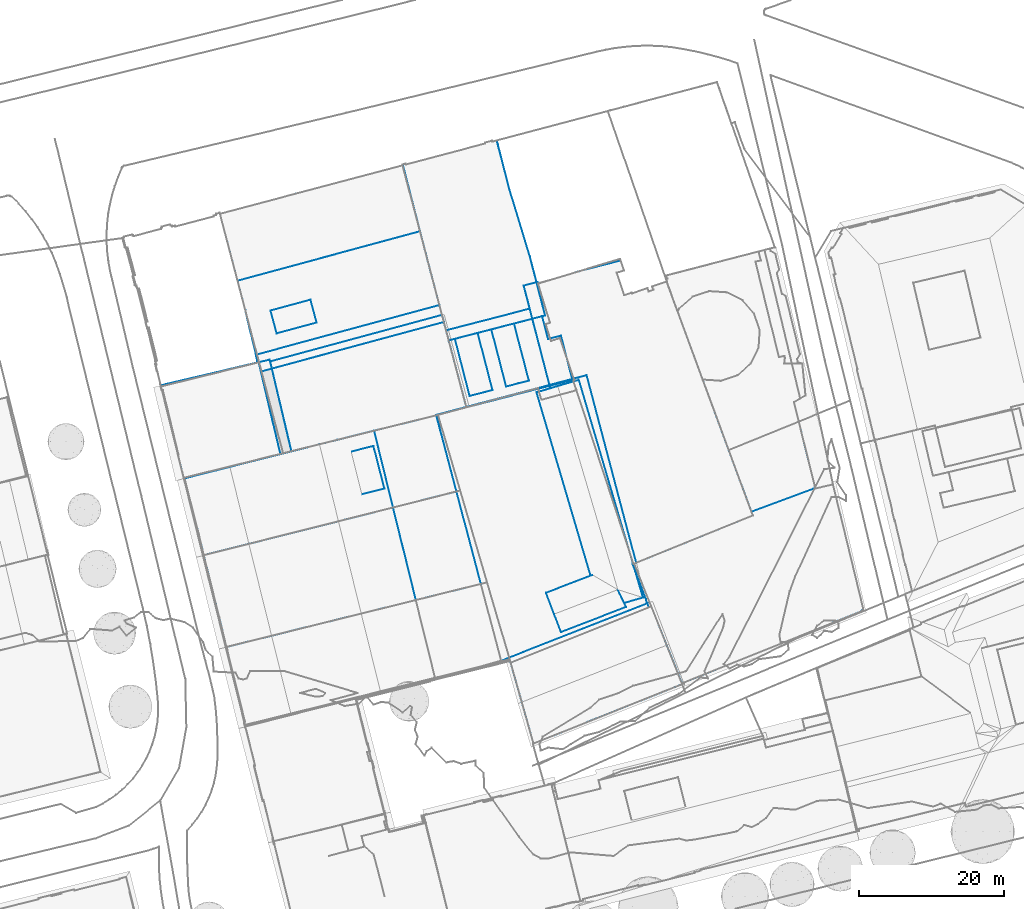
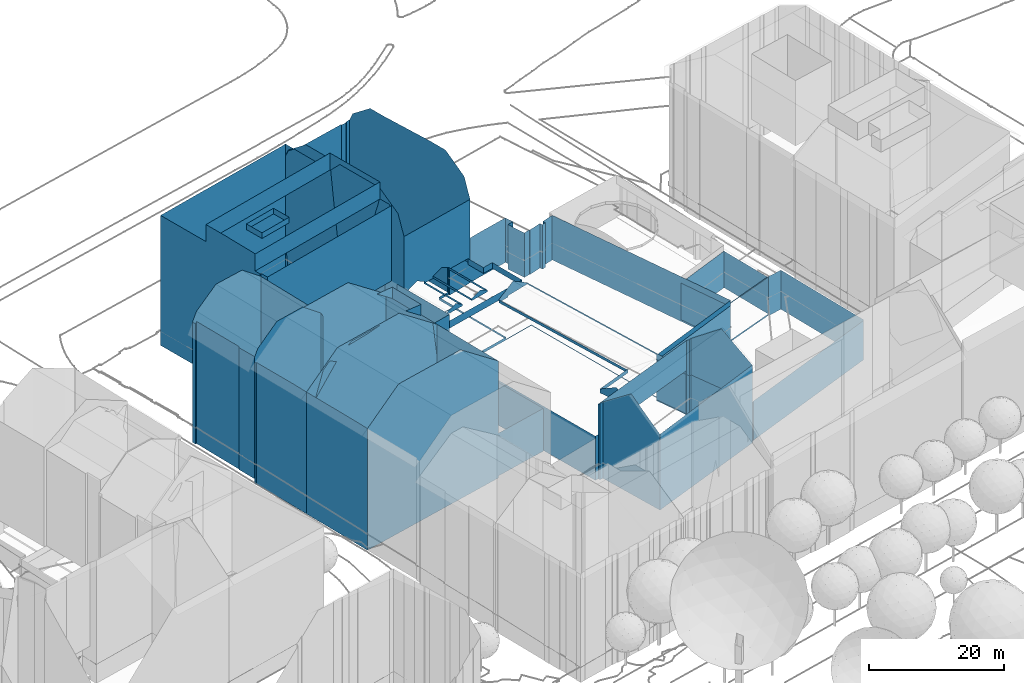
# Not in any storey, part 59 of 477: 6 walls.
"""IFC4 building model written with IfcOpenShell, lengths in metres."""

import ifcopenshell
import ifcopenshell.guid

model = None  # the IFC model being written
_history = None  # IfcOwnerHistory: only IFC2X3 demands one
_inside = {}  # id of a spatial element -> (the spatial element, [elements in it])
_under = {}  # id of a project, library or spatial element -> (it, [spatial elements below it])
_declared = {}  # id of a project -> (the project, [libraries it declares])
_typed = {}  # id of a type object -> (the type object, [elements of that type])
_made_of = {}  # id of a material, layer set ... -> (it, [elements and type objects made of it])


def new_model(schema):
    """Start an empty IFC model of exactly this schema.

    Asked for "IFC4X3", IfcOpenShell would pick the latest addendum, in which some entities
    have other attributes; the version numbers below select the first issue.
    IFC2X3 requires an IfcOwnerHistory on every rooted entity: one is made here for all.
    """
    global model, _history
    if schema == "IFC4X3":
        model = ifcopenshell.file(schema_version=(4, 3, 0, 0))
    else:
        model = ifcopenshell.file(schema=schema)
    _inside.clear()
    _under.clear()
    _declared.clear()
    _typed.clear()
    _made_of.clear()
    _history = None
    if model.schema == "IFC2X3":
        org = make("IfcOrganization", Name="unknown")
        user = make(
            "IfcPersonAndOrganization",
            ThePerson=make("IfcPerson", FamilyName="unknown"),
            TheOrganization=org,
        )
        app = make(
            "IfcApplication",
            ApplicationDeveloper=org,
            Version="unknown",
            ApplicationFullName="unknown",
            ApplicationIdentifier="unknown",
        )
        _history = make(
            "IfcOwnerHistory",
            OwningUser=user,
            OwningApplication=app,
            ChangeAction="ADDED",
            CreationDate=0,
        )
    return model


def make(cls, **values):
    """One entity of the class cls with the attributes given. An attribute that is None is left unset."""
    return model.create_entity(
        cls, **{name: value for name, value in values.items() if value is not None}
    )


def rooted(cls, **values):
    """An entity with a GlobalId (a new one), such as an element, a storey or a relation."""
    return make(cls, GlobalId=ifcopenshell.guid.new(), OwnerHistory=_history, **values)


def si_unit(unit_type, name, prefix=None):
    """IfcSIUnit, for example si_unit("LENGTHUNIT", "METRE", prefix="MILLI")."""
    return make("IfcSIUnit", UnitType=unit_type, Prefix=prefix, Name=name)


def assignment(units):
    """IfcUnitAssignment: the units of a project."""
    return None if units is None else make("IfcUnitAssignment", Units=units)


def point(xyz):
    """IfcCartesianPoint."""
    return None if xyz is None else make("IfcCartesianPoint", Coordinates=xyz)


def direction(xyz):
    """IfcDirection."""
    return None if xyz is None else make("IfcDirection", DirectionRatios=xyz)


def frame(location, z_axis=None, x_axis=None):
    """IfcAxis2Placement3D, a coordinate frame: its origin and axes. An axis left out is left unset."""
    return make(
        "IfcAxis2Placement3D",
        Location=point(location),
        Axis=direction(z_axis),
        RefDirection=direction(x_axis),
    )


def origin_with_axes():
    """The frame at (0, 0, 0) with the z axis (0, 0, 1) and the x axis (1, 0, 0) written out."""
    return frame((0.0, 0.0, 0.0), z_axis=(0.0, 0.0, 1.0), x_axis=(1.0, 0.0, 0.0))


def place(relative_to, where):
    """IfcLocalPlacement: puts the frame where relative to a parent placement (None: the world)."""
    return make(
        "IfcLocalPlacement", PlacementRelTo=relative_to, RelativePlacement=where
    )


def context(
    kind, dimensions, precision=None, world=None, true_north=None, identifier=None
):
    """IfcGeometricRepresentationContext, for example the 3D "Model" context."""
    return make(
        "IfcGeometricRepresentationContext",
        ContextIdentifier=identifier,
        ContextType=kind,
        CoordinateSpaceDimension=dimensions,
        Precision=precision,
        WorldCoordinateSystem=world,
        TrueNorth=true_north,
    )


def subcontext(parent, identifier, kind, view, scale=None):
    """IfcGeometricRepresentationSubContext, for example "Body" below "Model"."""
    return make(
        "IfcGeometricRepresentationSubContext",
        ContextIdentifier=identifier,
        ContextType=kind,
        ParentContext=parent,
        TargetScale=scale,
        TargetView=view,
    )


def project(units=None, contexts=None):
    """IfcProject with its units and contexts."""
    return rooted(
        "IfcProject",
        Name="project",
        RepresentationContexts=contexts,
        UnitsInContext=assignment(units),
    )


def spatial(cls, under=None, at=None, **own):
    """A site, building, storey or space (cls), placed at a placement, below another one or the project."""
    s = rooted(cls, ObjectPlacement=at, **own)
    if under is not None:
        _under.setdefault(under.id(), (under, []))[1].append(s)
    return s


def point_list(points):
    """IfcCartesianPointList2D or 3D."""
    cls = (
        "IfcCartesianPointList2D" if len(points[0]) == 2 else "IfcCartesianPointList3D"
    )
    return make(cls, CoordList=points)


def polygons(points, faces, closed=None, point_numbers=None):
    """IfcPolygonalFaceSet: a face is its outer loop, then its inner loops; points numbered from 1."""
    made = []
    for loops in faces:
        if len(loops) == 1:
            made.append(make("IfcIndexedPolygonalFace", CoordIndex=loops[0]))
        else:
            made.append(
                make(
                    "IfcIndexedPolygonalFaceWithVoids",
                    CoordIndex=loops[0],
                    InnerCoordIndices=loops[1:],
                )
            )
    return make(
        "IfcPolygonalFaceSet",
        Coordinates=point_list(points),
        Closed=closed,
        Faces=made,
        PnIndex=point_numbers,
    )


def shape(context_of_items, identifier, shape_type, items):
    """IfcShapeRepresentation: the items that make up one representation, for example the "Body"."""
    return make(
        "IfcShapeRepresentation",
        ContextOfItems=context_of_items,
        RepresentationIdentifier=identifier,
        RepresentationType=shape_type,
        Items=items,
    )


def made_of(thing, what):
    """Note that an element or type object is made of a material, layer set ...; save() writes the relation."""
    if what is not None:
        _made_of.setdefault(what.id(), (what, []))[1].append(thing)
    return thing


def element(
    cls,
    number,
    at=None,
    inside=None,
    cuts=None,
    type_object=None,
    material=None,
    context=None,
    identifier="Body",
    shape_type=None,
    held_by="IfcProductDefinitionShape",
    body=None,
    shapes=None,
    **own,
):
    """One element of the class cls, such as IfcWall. Its Tag is "e" and its number.

    at: its placement. inside: the storey or other place that contains it. cuts: it is an
    opening in that element (IfcRelVoidsElement). A single representation is given by context,
    identifier, shape_type and body (its items); several are given by shapes. held_by: the class
    of the entity that holds the representations. save() writes the other relations.
    """
    e = rooted(cls, Tag="e%d" % number, ObjectPlacement=at, **own)
    if body is not None:
        shapes = [shape(context, identifier, shape_type, body)]
    if shapes is not None:
        e.Representation = make(held_by, Representations=shapes)
    if inside is not None:
        _inside.setdefault(inside.id(), (inside, []))[1].append(e)
    if cuts is not None:
        rooted(
            "IfcRelVoidsElement", RelatingBuildingElement=cuts, RelatedOpeningElement=e
        )
    if type_object is not None:
        _typed.setdefault(type_object.id(), (type_object, []))[1].append(e)
    return made_of(e, material)


def aggregate(whole, parts):
    """IfcRelAggregates: a whole, such as a stair, and the parts it consists of."""
    return rooted("IfcRelAggregates", RelatingObject=whole, RelatedObjects=parts)


def save(model, path):
    """Write the relations noted so far, then the file.

    IfcRelAggregates (storeys below a building ...), IfcRelContainedInSpatialStructure (elements
    in a storey), IfcRelDefinesByType, IfcRelAssociatesMaterial and IfcRelDeclares: one each for
    every whole, place, type object, material and project.
    """
    for whole, parts in _under.values():
        aggregate(whole, parts)
    for where, things in _inside.values():
        rooted(
            "IfcRelContainedInSpatialStructure",
            RelatedElements=things,
            RelatingStructure=where,
        )
    for kind, things in _typed.values():
        rooted("IfcRelDefinesByType", RelatedObjects=things, RelatingType=kind)
    for what, things in _made_of.values():
        rooted("IfcRelAssociatesMaterial", RelatedObjects=things, RelatingMaterial=what)
    for by, libraries in _declared.values():
        rooted("IfcRelDeclares", RelatingContext=by, RelatedDefinitions=libraries)
    model.write(path)


model = new_model("IFC4")

# Units and contexts
model_context = context("Model", 3, precision=1e-05, world=origin_with_axes())
body_context = subcontext(model_context, "Body", "Model", "MODEL_VIEW")
ifc_project = project(units=[si_unit("AREAUNIT", "SQUARE_METRE"), si_unit("LENGTHUNIT", "METRE")], contexts=[model_context])

# Sites, building
site_1_placement = place(None, origin_with_axes())
site_1 = spatial("IfcSite", under=ifc_project, at=site_1_placement, Name="Topoexport Site")
site_2_placement = place(site_1_placement, origin_with_axes())
site_2 = spatial("IfcSite", under=site_1, at=site_2_placement, Name="TPX_BUILDINGS")
building_1_placement = place(site_2_placement, frame((138.3257320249, 434.5047160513, 538.8886), z_axis=(0.0, 0.0, 1.0), x_axis=(1.0, 0.0, 0.0)))
building_1 = spatial("IfcBuilding", under=site_2, at=building_1_placement, Name="Building 221", CompositionType="ELEMENT")

# Wall
wall_1_placement = place(None, frame((138.3257320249, 434.5047160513, 538.8886), z_axis=(0.0, 0.0, 1.0), x_axis=(1.0, 0.0, 0.0)))
element("IfcWall", 1, at=wall_1_placement, inside=building_1, Name="Wall 0", context=body_context, shape_type="Tessellation", body=[
    polygons([(16.518000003, -9.4560999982, 0.0), (12.825000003, -10.3867000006, 0.0), (16.518000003, -9.4560999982, 23.2408), (13.5280000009, 3.1963, 0.0), (13.5280000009, 3.1963, 23.2408), (9.8220000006, 2.3213, 0.0), (9.8220000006, 2.3213, 26.2215), (7.6590000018, -11.6904000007, 26.2215), (12.825000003, -10.3867000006, 26.2215), (4.6380000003, 1.0956999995, 0.0), (4.6380000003, 1.0956999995, 26.2215), (7.6590000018, -11.6904000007, 0.0), (3.8420000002, -12.6532999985, 23.2408), (0.807, 0.1914000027, 0.0), (0.807, 0.1914000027, 23.2408), (0.0, 0.0, 21.6769), (0.1640000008, -0.6611000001, 21.6909), (0.1640000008, -0.6611000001, 0.0), (0.0, 0.0, 0.0), (0.3480000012, -0.615199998, 22.0489), (0.3480000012, -0.615199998, 0.0), (2.4940000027, -9.5020000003, 22.1329), (2.4230000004, -9.5194999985, 0.0), (2.4940000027, -9.5020000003, 0.0), (2.4231000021, -9.5196000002, 21.9949), (3.2370000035, -12.8046999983, 0.0), (3.2200000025, -12.7372999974, 22.0639), (3.2370000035, -12.8046999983, 22.0639), (3.8420000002, -12.6532999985, 0.0)], [[[3, 2, 1]], [[5, 3, 4]], [[7, 5, 6]], [[9, 8, 2]], [[11, 7, 10]], [[8, 13, 12]], [[15, 10, 14]], [[18, 17, 16]], [[16, 19, 18]], [[17, 18, 20]], [[20, 18, 21]], [[20, 21, 22]], [[24, 23, 22]], [[22, 23, 25]], [[27, 25, 26]], [[26, 25, 23]], [[26, 28, 27]], [[13, 28, 29]], [[16, 14, 19]], [[14, 16, 15]], [[9, 2, 3]], [[3, 1, 4]], [[5, 4, 6]], [[8, 12, 2]], [[7, 6, 10]], [[13, 29, 12]], [[11, 10, 15]], [[22, 21, 24]], [[28, 26, 29]]]),
])

# Building
building_2_placement = place(site_2_placement, frame((146.5207320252, 458.1258160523, 539.1716), z_axis=(0.0, 0.0, 1.0), x_axis=(1.0, 0.0, 0.0)))
building_2 = spatial("IfcBuilding", under=site_2, at=building_2_placement, Name="Building 222", CompositionType="ELEMENT")

# Wall
wall_2_placement = place(None, frame((146.5207320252, 458.1258160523, 539.1716), z_axis=(0.0, 0.0, 1.0), x_axis=(1.0, 0.0, 0.0)))
element("IfcWall", 2, at=wall_2_placement, inside=building_2, Name="Wall 0", context=body_context, shape_type="Tessellation", body=[
    polygons([(7.818, -16.4530999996, 26.5324), (6.9640000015, -13.3027999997, 27.5443), (7.818, -16.4530999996, 27.5443), (13.3110000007, -14.9638999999, 26.5324), (13.3110000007, -14.9638999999, 27.5443), (12.4570000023, -11.8145000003, 26.5324), (12.4570000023, -11.8145000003, 27.5443), (6.9640000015, -13.3027999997, 26.5324), (27.5430000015, -2.3984999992, 23.4627), (30.2070000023, -12.5498000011, 26.5324), (27.5290000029, -2.4023999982, 26.5324), (28.3380000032, -5.4688000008, 0.0), (27.5290000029, -2.4023999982, 0.041), (30.2070000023, -12.5498000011, 23.4627), (2.4310000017, -9.2050999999, 23.4627), (2.4310000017, -9.2050999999, 26.5324), (3.495000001, -13.2324000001, 23.4627), (3.4940000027, -13.2324000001, 26.5324), (4.9450000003, -19.3993999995, 23.4627), (4.887000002, -19.0351999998, 26.5324), (4.9450000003, -19.3993999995, 26.5324), (25.1030000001, 6.7899999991, 0.0), (25.1620000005, 6.8055999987, 23.4627), (25.1030000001, 6.7899999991, 23.4627), (25.137000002, 6.6611000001, 0.0), (25.137000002, 6.6611000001, 23.4627), (0.0, 0.0, 0.0), (0.0, 0.0, 23.4628), (3.4940000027, -13.2324000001, 0.041), (3.495000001, -13.2324000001, 0.0), (4.9539999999, -19.4560999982, 0.0), (4.9539999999, -19.4560999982, 23.4627), (4.887000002, -19.0351999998, 0.0), (5.189000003, -20.4589999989, 0.0), (5.189000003, -20.4589999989, 23.4627), (5.3910000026, -20.4120999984, 23.4627), (5.3330000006, -20.4248000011, 22.9578), (5.3330000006, -20.4248000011, 0.0), (5.7270000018, -21.6865000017, 22.7538), (5.3910000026, -20.4111000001, 22.8278), (5.7270000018, -21.6865000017, 23.4627), (7.1530000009, -21.2987999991, 9.859), (7.1530000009, -21.2987999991, 19.5231), (30.8230000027, -14.8828000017, 9.859), (30.8230000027, -14.8828000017, 23.4627), (30.0260000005, -27.6796999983, -0.206), (9.8399999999, -32.6708999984, 9.859), (30.0260000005, -27.6796999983, 9.859), (33.9230000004, -26.629900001, -0.206), (33.9230000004, -26.629900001, 9.859), (6.9210000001, -20.317400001, -0.2059), (30.5660000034, -13.9092000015, 0.0), (6.9210000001, -20.317400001, 0.0001), (8.3230000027, -33.0771999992, -0.283), (8.3230000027, -33.0771999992, 22.9578), (5.3330000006, -20.4248000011, -0.283), (9.8440000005, -32.6875, -0.283), (9.8440000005, -32.6875, 19.5231), (6.8610000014, -20.0645000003, -0.283), (6.8610000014, -20.0645000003, 0.0), (9.8399999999, -32.6708999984, -0.206), (5.3910000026, -20.4120999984, 0.0), (4.0580000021, -15.6338, 23.4627), (4.0580000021, -15.6338, 26.5324), (4.0580000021, -15.6338, 0.0), (30.2070000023, -12.5498000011, 0.0409), (30.5660000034, -13.9092000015, -0.206), (25.3410000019, 6.1123000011, 23.4627), (25.1620000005, 6.8055999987, 0.0), (25.3410000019, 6.1123000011, 0.0), (26.2660000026, 2.5370999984, 0.0), (26.2660000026, 2.5370999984, 23.4627)], [[[3, 2, 1]], [[5, 3, 4]], [[7, 5, 6]], [[2, 7, 8]], [[11, 10, 9]], [[13, 9, 12]], [[14, 12, 9]], [[16, 11, 15]], [[18, 16, 17]], [[21, 20, 19]], [[10, 19, 14]], [[24, 23, 22]], [[26, 24, 25]], [[28, 26, 27]], [[29, 17, 15]], [[30, 29, 27]], [[15, 28, 27]], [[15, 27, 29]], [[32, 19, 31]], [[31, 19, 33]], [[20, 33, 19]], [[35, 32, 34]], [[37, 36, 35]], [[37, 34, 38]], [[41, 40, 39]], [[44, 43, 42]], [[43, 44, 45]], [[45, 39, 43]], [[39, 45, 41]], [[48, 47, 46]], [[50, 48, 49]], [[53, 52, 51]], [[55, 38, 54]], [[38, 56, 54]], [[58, 54, 57]], [[36, 37, 40]], [[60, 51, 59]], [[51, 60, 53]], [[59, 51, 57]], [[43, 58, 47]], [[47, 57, 61]], [[57, 47, 58]], [[42, 43, 47]], [[56, 38, 62]], [[62, 60, 59]], [[62, 59, 56]], [[64, 18, 63]], [[63, 29, 65]], [[20, 63, 33]], [[66, 52, 12]], [[66, 14, 44]], [[44, 52, 66]], [[44, 49, 52]], [[49, 44, 50]], [[52, 49, 67]], [[44, 14, 45]], [[70, 69, 68]], [[70, 68, 71]], [[72, 9, 13]], [[72, 13, 71]], [[2, 8, 1]], [[3, 1, 4]], [[5, 4, 6]], [[7, 6, 8]], [[10, 14, 9]], [[66, 12, 14]], [[11, 9, 15]], [[16, 15, 17]], [[21, 19, 10]], [[23, 69, 22]], [[24, 22, 25]], [[26, 25, 27]], [[29, 30, 65]], [[32, 31, 34]], [[35, 34, 37]], [[36, 40, 41]], [[47, 61, 46]], [[48, 46, 49]], [[52, 67, 51]], [[37, 38, 55]], [[55, 54, 58]], [[51, 61, 57]], [[18, 17, 63]], [[17, 29, 63]], [[64, 63, 20]], [[63, 65, 33]], [[69, 23, 68]], [[68, 72, 71]]]),
])

# Building
building_3_placement = place(site_2_placement, frame((171.6827320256, 464.931416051, 544.4901), z_axis=(0.0, 0.0, 1.0), x_axis=(1.0, 0.0, 0.0)))
building_3 = spatial("IfcBuilding", under=site_2, at=building_3_placement, Name="Building 223", CompositionType="ELEMENT")

# Wall
wall_3_placement = place(None, frame((171.6827320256, 464.931416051, 544.4901), z_axis=(0.0, 0.0, 1.0), x_axis=(1.0, 0.0, 0.0)))
element("IfcWall", 3, at=wall_3_placement, inside=building_3, Name="Wall 0", context=body_context, shape_type="Tessellation", body=[
    polygons([(25.3049999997, -29.0145999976, -5.9495), (32.1319999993, -54.8358999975, -5.7696), (25.3049999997, -29.0145999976, -5.7695), (8.75, -33.3915999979, -5.4106), (8.75, -33.3915999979, 2.0357), (4.6040000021, -34.4872999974, 2.0357), (20.193, -30.3662, -5.7695), (4.6040000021, -34.4872999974, -5.9495), (20.193, -30.3662, -5.4106), (14.1380000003, -68.1405999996, -5.9496), (13.5439999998, -68.297799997, 2.0357), (14.1380000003, -68.1405999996, 2.0357), (33.4499999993, -59.8192999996, -5.9496), (33.6090000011, -60.4188999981, 2.0357), (33.4499999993, -59.8192999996, 2.0357), (14.7910000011, -68.3524999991, 4.3825), (14.2369999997, -68.4891999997, 7.7761), (14.7910000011, -68.3524999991, 7.8321), (14.7910000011, -68.3524999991, -5.9656), (14.2369999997, -68.4891999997, 4.3265), (14.7910000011, -68.3524999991, 0.9328), (14.2369999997, -68.4891999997, -5.9656), (33.8800000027, -60.9549999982, 7.8991), (34.2039999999, -60.8250999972, 0.9648), (34.2039999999, -60.8250999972, 7.8971), (34.2039999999, -60.8250999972, -5.9656), (34.2039999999, -60.8250999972, -2.5009), (33.8800000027, -60.9549999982, -5.9656), (33.6680000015, -60.3954999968, -5.9656), (33.6680000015, -60.3954999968, 7.4562), (25.8440000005, -56.5965999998, 2.5666), (19.699000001, -58.9579999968, 2.7386), (19.699000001, -58.9579999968, 2.0357), (26.1090000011, -56.495099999, 2.7386), (25.8440000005, -56.5965999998, 2.0357), (30.7530000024, -60.8993999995, 2.0357), (21.7699999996, -64.3495999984, 2.7386), (30.7530000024, -60.8993999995, 2.7386), (29.568, -58.5086999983, 4.4095), (30.4890000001, -60.3671000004, 2.5666), (30.4890000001, -60.3671000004, 2.0357), (24.2270000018, -29.6512999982, 2.2927), (31.7090000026, -55.0077999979, 2.2927), (24.2270000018, -29.6512999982, 2.5667), (31.9940000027, -55.9725999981, 2.0357), (33.0670000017, -59.6063999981, 2.0357), (31.9940000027, -55.9725999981, 2.5666), (33.0670000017, -59.6063999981, 2.5666), (18.4000000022, -31.3719999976, 2.5667), (21.7800000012, -23.5692999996, 2.2927), (23.3570000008, -29.6620999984, 3.3656), (21.7800000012, -23.5692999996, 3.3656), (19.9979999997, -24.0301999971, 2.2927), (19.9979999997, -24.0301999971, 3.3656), (19.1810000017, -20.9041999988, 2.2927), (19.1810000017, -20.9041999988, 3.3656), (5.9640000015, -22.8387999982, -5.4105), (17.4739999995, -19.8592999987, -5.2746), (5.9640000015, -22.8387999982, -5.2746), (14.6960000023, -3.5155999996, -5.2745), (17.4869999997, -12.6708000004, 20.167), (14.6960000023, -3.5155999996, 20.167), (14.0340000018, -0.9569999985, -5.2745), (14.0340000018, -0.9569999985, 20.167), (14.0250000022, -0.9237999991, -5.2745), (14.0250000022, -0.9237999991, 20.167), (12.2910000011, 3.1182000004, -5.2745), (12.2550000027, 3.2442000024, 15.6715), (12.2550000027, 3.2442000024, -5.2745), (11.3139999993, 3.0020000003, 15.6675), (11.3139999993, 3.0020000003, -5.2745), (11.3489999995, 2.8692000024, 15.9664), (11.3489999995, 2.8692000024, -5.2745), (0.4519999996, -0.0185000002, -5.2745), (0.4519999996, -0.0185000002, 16.1084), (0.4180000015, 0.1114000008, 15.8165), (0.4180999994, 0.1114000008, -5.2745), (0.0, 0.0, 0.0), (0.1770000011, 0.0469000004, 15.8195), (0.0, 0.0, 5.2745), (0.0, 0.0001000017, -5.2745), (15.3159999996, -21.9051999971, 3.7316), (19.5910000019, -20.7987999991, 13.8566), (13.8949999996, -22.2723999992, 4.4195), (12.194000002, -22.7137999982, 3.7316), (8.9189999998, -23.5604999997, 4.5115), (6.3320000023, -24.2303999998, 13.8566), (19.5910000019, -20.7987999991, 2.2927), (15.3159999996, -21.9051999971, 3.3656), (10.313000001, -23.2010999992, 3.7316), (6.3320000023, -24.2303999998, 3.3656), (7.1720000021, -24.0135999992, 3.7316), (12.194000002, -22.7137999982, 3.3656), (10.313000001, -23.2010999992, 3.3656), (7.1720000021, -24.0135999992, 3.3656), (18.6300000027, -16.4188999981, -5.7695), (24.2190000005, -14.7264999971, 2.2927), (18.6300000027, -16.4188999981, 2.2927), (18.5610000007, -16.1912999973, -5.7695), (18.5610000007, -16.1912999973, 2.2927), (34.3350000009, -16.8084999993, -5.7695), (36.3110000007, -16.1248999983, 2.2927), (34.3350000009, -16.8084999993, 2.2927), (34.4930000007, -17.2625999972, -5.7695), (34.4930000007, -17.2625999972, 2.2927), (33.8560000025, -17.4881999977, -5.7695), (33.8560000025, -17.4881999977, 2.2927), (33.6999999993, -17.0350999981, -5.7695), (33.6999999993, -17.0350999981, 2.2927), (31.5340000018, -17.7567999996, -5.7695), (31.5340000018, -17.7567999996, 2.2927), (31.5030000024, -17.6629999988, -5.7695), (31.5030000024, -17.6629999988, 2.2927), (30.4830000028, -18.0086999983, -5.7695), (30.4830000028, -18.0086999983, 2.2927), (29.4389999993, -14.9199000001, -5.7695), (29.4389999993, -14.9199000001, 2.2927), (30.4539999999, -14.6063999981, -5.7695), (30.4539999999, -14.6063999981, 2.2927), (29.9849999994, -13.2342999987, -5.7695), (29.9849999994, -13.2342999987, 2.2927), (24.2190000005, -14.7264999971, -5.7695), (18.4090000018, -16.2303999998, -5.2746), (16.6520000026, -16.6854999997, -5.2746), (16.6520000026, -16.6854999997, -5.7695), (18.4090000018, -16.2303999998, 2.2927), (12.3470000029, -31.0594999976, 3.7316), (9.2070000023, -31.8729999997, 3.7316), (9.2070000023, -31.8729999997, 3.3656), (17.3500000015, -29.7645999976, 3.3656), (17.3500000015, -29.7645999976, 3.7316), (14.2280000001, -30.5722000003, 3.7316), (14.2280000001, -30.5722000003, 3.3656), (23.3570000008, -29.6620999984, 2.2927), (20.2210000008, -30.4725999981, 2.2927), (8.762000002, -33.4373999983, 3.3656), (20.2210000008, -30.4725999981, 2.0357), (8.762000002, -33.4373999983, 2.0357), (17.4739999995, -19.8592999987, -5.4106), (20.3080000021, -30.8084999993, 2.0357), (20.3080000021, -30.8084999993, 2.2927), (31.6400000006, -55.0361000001, 2.6116), (31.6400000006, -55.0361000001, -5.9496), (10.7540000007, -57.7459999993, -5.9495), (10.7540000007, -57.7459999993, 2.0357), (7.3910000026, -45.0252999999, -5.9495), (7.3910000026, -45.0252999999, 2.0357), (37.4580000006, -71.9287, -5.9656), (38.4739999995, -71.5223999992, 8.0841), (38.4739999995, -71.5223999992, -5.9656), (37.4580000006, -71.9287, 8.0801), (17.9940000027, -79.7010999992, -5.9657), (17.9940000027, -79.7010999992, 7.721), (36.3260000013, -66.1415999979, 12.1367), (36.2930000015, -66.0594999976, 12.0707), (36.3260000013, -66.1415999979, -5.9656), (36.2930000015, -66.0594999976, -5.9656), (16.4210000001, -74.1268999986, -5.9656), (16.3780000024, -73.9764999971, -5.9656), (16.3780000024, -73.9764999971, 12.1367), (16.4210000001, -74.1268999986, 12.0287), (14.1380000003, -68.1405999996, 7.5092), (14.1190000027, -68.0711999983, 7.4562), (14.1190000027, -68.0711999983, 2.0357), (14.1190000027, -68.0711999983, -5.9656), (14.1190000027, -68.0711999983, -5.9496), (33.6090000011, -60.4188999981, -5.9495), (20.818, -61.870099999, 2.0357), (21.7699999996, -64.3495999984, 2.0357), (20.818, -61.870099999, 4.4095), (48.182, -48.302699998, -5.7696), (48.182, -48.302699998, 2.2927), (32.1319999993, -54.8358999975, -5.9496), (31.7090000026, -55.0077999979, 2.5666), (21.3060000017, -30.5135999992, 4.4095), (18.4000000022, -31.3719999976, 2.0357), (18.2939999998, -15.7879999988, 20.167), (19.2770000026, -19.5848999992, 17.3803), (19.2770000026, -19.5848999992, 2.2927), (17.4869999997, -12.6708000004, -5.2746), (12.2910000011, 3.1182000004, 15.9564), (12.9360000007, 3.2901000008, 15.9454), (12.6440000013, 3.2120000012, -5.2745), (12.9360000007, 3.2901000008, -5.2745), (1.1040000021, -4.2685000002, 20.167), (0.0, 0.0001000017, 15.8225), (0.1790000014, -0.6932999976, 17.3803), (0.0, 0.0, 10.548), (3.1779999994, -12.2821999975, 20.167), (0.1790000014, -0.6932999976, -5.2745), (1.1040000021, -4.2685000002, -5.2745), (3.1779999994, -12.2821999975, -5.2745), (13.0840000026, 2.7138999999, -5.2745), (13.1000000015, 2.6513999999, -5.2745), (13.1000000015, 2.6513999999, 17.3803), (36.3110000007, -16.1248999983, -5.7695), (37.0789999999, -18.2079999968, 2.2927), (37.0789999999, -18.2079999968, -5.7695), (10.9530000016, -31.4208000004, 4.5115), (12.3470000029, -31.0594999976, 3.3656), (15.9299999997, -30.1327999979, 3.3656), (15.9299999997, -30.1327999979, 4.4195), (5.0109999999, -19.2254999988, 20.167), (5.0109999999, -19.2254999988, -5.2746), (6.012000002, -23.0185000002, 17.3803), (13.5439999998, -68.297799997, -5.9496)], [[[3, 2, 1]], [[6, 5, 4]], [[8, 4, 7]], [[4, 8, 6]], [[9, 7, 4]], [[3, 1, 7]], [[7, 1, 8]], [[12, 11, 10]], [[15, 14, 13]], [[18, 17, 16]], [[21, 20, 19]], [[20, 22, 19]], [[25, 24, 23]], [[27, 26, 23]], [[23, 26, 28]], [[30, 23, 29]], [[29, 23, 28]], [[33, 32, 31]], [[34, 31, 32]], [[31, 35, 33]], [[38, 37, 36]], [[40, 39, 38]], [[40, 36, 41]], [[36, 40, 38]], [[44, 43, 42]], [[47, 46, 45]], [[48, 40, 46]], [[31, 49, 35]], [[52, 51, 50]], [[54, 52, 53]], [[56, 54, 55]], [[59, 58, 57]], [[62, 61, 60]], [[64, 62, 63]], [[66, 64, 65]], [[69, 68, 67]], [[71, 70, 68]], [[68, 69, 71]], [[73, 72, 71]], [[72, 70, 71]], [[75, 72, 74]], [[72, 73, 74]], [[77, 76, 75]], [[75, 74, 77]], [[80, 79, 78]], [[81, 78, 79]], [[79, 77, 81]], [[83, 82, 56]], [[82, 83, 84]], [[86, 85, 84]], [[84, 83, 87]], [[88, 56, 55]], [[56, 88, 83]], [[56, 82, 89]], [[90, 85, 86]], [[92, 87, 91]], [[87, 92, 86]], [[90, 93, 85]], [[93, 90, 94]], [[91, 95, 92]], [[86, 84, 87]], [[98, 97, 96]], [[100, 98, 99]], [[103, 102, 101]], [[105, 103, 104]], [[107, 105, 106]], [[109, 107, 108]], [[111, 109, 110]], [[113, 111, 112]], [[115, 113, 114]], [[117, 115, 116]], [[119, 117, 118]], [[121, 119, 120]], [[97, 121, 122]], [[125, 124, 123]], [[123, 100, 99]], [[100, 123, 126]], [[123, 99, 125]], [[127, 94, 90]], [[129, 128, 95]], [[131, 130, 82]], [[133, 132, 93]], [[51, 135, 134]], [[135, 51, 136]], [[135, 138, 137]], [[138, 135, 136]], [[139, 7, 9]], [[124, 125, 139]], [[124, 139, 58]], [[141, 135, 140]], [[143, 142, 45]], [[45, 142, 47]], [[15, 13, 45]], [[145, 144, 11]], [[147, 146, 145]], [[6, 8, 147]], [[150, 149, 148]], [[148, 149, 151]], [[148, 153, 152]], [[153, 148, 151]], [[155, 154, 24]], [[25, 155, 24]], [[154, 149, 24]], [[149, 150, 156]], [[149, 156, 157]], [[27, 157, 26]], [[157, 27, 149]], [[149, 27, 24]], [[152, 153, 158]], [[158, 21, 159]], [[19, 159, 21]], [[21, 158, 153]], [[161, 160, 18]], [[161, 18, 16]], [[153, 16, 21]], [[153, 161, 16]], [[20, 17, 162]], [[20, 162, 163]], [[20, 164, 12]], [[164, 20, 163]], [[20, 12, 22]], [[12, 10, 22]], [[22, 10, 165]], [[165, 10, 166]], [[166, 167, 165]], [[163, 30, 164]], [[164, 30, 14]], [[14, 30, 167]], [[165, 167, 29]], [[169, 37, 168]], [[168, 37, 170]], [[168, 32, 33]], [[32, 168, 170]], [[172, 2, 171]], [[173, 2, 143]], [[172, 43, 2]], [[174, 142, 43]], [[143, 43, 142]], [[43, 143, 2]], [[175, 141, 49]], [[140, 176, 49]], [[49, 141, 140]], [[42, 141, 175]], [[42, 175, 44]], [[178, 83, 177]], [[177, 83, 61]], [[126, 61, 179]], [[61, 126, 180]], [[61, 83, 179]], [[88, 179, 83]], [[180, 126, 123]], [[182, 67, 181]], [[183, 67, 182]], [[183, 182, 184]], [[187, 186, 185]], [[189, 185, 188]], [[188, 185, 186]], [[189, 188, 80]], [[78, 81, 190]], [[80, 78, 191]], [[191, 192, 189]], [[191, 78, 190]], [[191, 189, 80]], [[194, 193, 182]], [[65, 194, 182]], [[193, 184, 182]], [[182, 195, 66]], [[66, 65, 182]], [[102, 197, 196]], [[171, 198, 172]], [[129, 200, 199]], [[199, 200, 127]], [[128, 129, 199]], [[130, 131, 201]], [[201, 131, 202]], [[132, 133, 201]], [[132, 201, 202]], [[91, 87, 189]], [[136, 91, 5]], [[5, 138, 136]], [[4, 5, 91]], [[91, 59, 4]], [[203, 189, 87]], [[189, 192, 91]], [[57, 4, 59]], [[204, 91, 192]], [[91, 204, 59]], [[87, 205, 203]], [[2, 173, 1]], [[11, 206, 10]], [[14, 167, 13]], [[17, 21, 16]], [[17, 20, 21]], [[24, 27, 23]], [[37, 169, 36]], [[174, 43, 44]], [[48, 46, 47]], [[40, 41, 46]], [[49, 176, 35]], [[51, 134, 50]], [[52, 50, 53]], [[54, 53, 55]], [[58, 139, 57]], [[61, 180, 60]], [[62, 60, 63]], [[64, 63, 65]], [[67, 68, 181]], [[186, 79, 188]], [[80, 188, 79]], [[76, 77, 79]], [[97, 122, 96]], [[98, 96, 99]], [[102, 196, 101]], [[103, 101, 104]], [[105, 104, 106]], [[107, 106, 108]], [[109, 108, 110]], [[111, 110, 112]], [[113, 112, 114]], [[115, 114, 116]], [[117, 116, 118]], [[119, 118, 120]], [[121, 120, 122]], [[200, 94, 127]], [[128, 92, 95]], [[130, 89, 82]], [[132, 85, 93]], [[125, 7, 139]], [[135, 137, 140]], [[13, 143, 45]], [[144, 206, 11]], [[146, 144, 145]], [[8, 146, 147]], [[30, 29, 167]], [[197, 198, 196]], [[198, 197, 172]]]),
])

# Building
building_4_placement = place(site_2_placement, frame((203.3227320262, 409.8953160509, 538.7355), z_axis=(0.0, 0.0, 1.0), x_axis=(1.0, 0.0, 0.0)))
building_4 = spatial("IfcBuilding", under=site_2, at=building_4_placement, Name="Building 225", CompositionType="ELEMENT")

# Wall
wall_4_placement = place(None, frame((203.3227320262, 409.8953160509, 538.7355), z_axis=(0.0, 0.0, 1.0), x_axis=(1.0, 0.0, 0.0)))
element("IfcWall", 4, at=wall_4_placement, inside=building_4, Name="Wall 0", context=body_context, shape_type="Tessellation", body=[
    polygons([(13.2300000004, 15.7090000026, 0.293), (22.8669999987, 19.6455000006, 6.8984), (13.2300000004, 15.7090000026, 6.8984), (0.0, 0.0, 0.0), (16.5419999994, 6.7334000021, 7.0823), (0.0, 0.0, 7.0824), (1.8099999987, -4.7831999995, 0.0), (1.8099999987, -4.7831999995, 7.0823), (1.9690000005, -5.3827999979, 0.0), (1.9690000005, -5.3827999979, 7.0823), (2.0280000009, -5.3593999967, 0.0), (2.0280000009, -5.3593999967, 7.0823), (2.2400000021, -5.9188999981, 0.0), (2.2400000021, -5.9188999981, 7.0823), (2.5639999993, -5.7889999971, 0.0), (2.5639999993, -5.7890999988, 7.0823), (6.8339999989, -16.4862999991, 0.0), (6.8339999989, -16.4862999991, 7.0823), (7.0720000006, -16.3925999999, 0.0), (7.0720000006, -16.3925999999, 7.0823), (7.0309999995, -16.2909999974, 0.0), (7.0309999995, -16.2909999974, 7.0823), (31.5199999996, -6.4589999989, 0.0), (31.5199999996, -6.4589999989, 7.0823), (31.6009999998, -6.4081999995, 0.0), (31.6009999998, -6.4081999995, 7.0823), (31.6669999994, -6.3398000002, 0.0), (31.6669999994, -6.3398000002, 7.0823), (31.7290000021, -6.1952999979, 0.0), (31.7290000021, -6.1952999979, 7.0823), (31.7300000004, -6.0682999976, 0.0), (31.7300000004, -6.0682999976, 7.0823), (27.5769999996, 10.9795000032, 0.0), (27.5769999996, 10.9795000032, 7.0823), (25.1530000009, 10.4326000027, 7.0823), (25.1530000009, 10.4326000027, 0.0), (16.3520000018, 7.2471000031, 6.8984), (25.1330000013, 10.5117000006, 7.0823), (16.3520000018, 7.2471000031, 7.0823), (16.3520000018, 7.2471000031, 0.0), (25.1330000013, 10.5117000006, 0.0), (16.3520000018, 7.2471000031, 0.293), (16.5419999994, 6.7334000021, 0.0), (25.1330000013, 10.5117000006, 0.293), (25.1330000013, 10.5117000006, 6.8984), (22.8669999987, 19.6455000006, 0.293)], [[[3, 2, 1]], [[6, 5, 4]], [[8, 6, 7]], [[10, 8, 9]], [[12, 10, 11]], [[14, 12, 13]], [[16, 14, 15]], [[18, 16, 17]], [[20, 18, 19]], [[22, 20, 21]], [[24, 22, 23]], [[26, 24, 25]], [[28, 26, 27]], [[30, 28, 29]], [[32, 30, 31]], [[34, 32, 33]], [[36, 35, 34]], [[39, 38, 37]], [[42, 41, 40]], [[5, 39, 37]], [[42, 5, 37]], [[37, 3, 42]], [[42, 40, 43]], [[2, 45, 44]], [[44, 46, 2]], [[44, 36, 41]], [[44, 45, 36]], [[35, 45, 38]], [[2, 46, 1]], [[5, 43, 4]], [[6, 4, 7]], [[8, 7, 9]], [[10, 9, 11]], [[12, 11, 13]], [[14, 13, 15]], [[16, 15, 17]], [[18, 17, 19]], [[20, 19, 21]], [[22, 21, 23]], [[24, 23, 25]], [[26, 25, 27]], [[28, 27, 29]], [[30, 29, 31]], [[32, 31, 33]], [[34, 33, 36]], [[38, 45, 37]], [[44, 41, 42]], [[43, 5, 42]], [[3, 1, 42]], [[36, 45, 35]]]),
])

# Building
building_5_placement = place(site_2_placement, frame((141.5627320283, 421.7029160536, 538.0287), z_axis=(0.0, 0.0, 1.0), x_axis=(1.0, 0.0, 0.0)))
building_5 = spatial("IfcBuilding", under=site_2, at=building_5_placement, Name="Building 227", CompositionType="ELEMENT")

# Wall
wall_5_placement = place(None, frame((141.5627320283, 421.7029160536, 538.0287), z_axis=(0.0, 0.0, 1.0), x_axis=(1.0, 0.0, 0.0)))
element("IfcWall", 5, at=wall_5_placement, inside=building_5, Name="Wall 0", context=body_context, shape_type="Tessellation", body=[
    polygons([(27.5909999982, -1.3779000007, 21.5249), (24.4709999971, -2.1845000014, 23.9257), (27.5909999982, -1.3779000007, 23.5407), (26.0779999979, 4.486399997, 21.5729), (26.0779999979, 4.486399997, 23.6367), (23.0029999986, 3.691399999, 23.9397), (0.1639999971, -0.2509000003, 21.9679), (0.068, -0.2773000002, 0.0), (0.068, -0.2773000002, 21.8919), (0.1637999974, -0.251000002, 0.0), (0.0, 9.9998e-05, 16.4194), (0.0, 9.9998e-05, 10.9469), (0.0, 0.0, 0.0), (0.0, 0.0, 5.4734), (2.3239999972, -8.7978000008, 5.4934), (2.561999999, -9.7928999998, 21.9898), (2.5759999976, -9.8535000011, 5.4864), (2.743999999, -10.5576000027, 16.4844), (2.743999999, -10.5576000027, 21.9848), (2.743999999, -10.5576000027, -0.0001), (2.743999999, -10.5576000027, 10.9829), (2.3919999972, -9.0810000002, 21.9938), (2.0719999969, -7.7422000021, -0.0001), (2.0719999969, -7.7422000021, 22.0028), (34.737999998, 8.6875, 0.3629), (37.5109999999, -1.7968000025, 8.0922), (34.737999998, 8.6875, 8.0922), (26.1769999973, 6.5751999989, -0.0001), (28.7859999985, -4.0019000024, 0.3629), (26.1769999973, 6.5751999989, 0.3629), (26.1789999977, 6.5683999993, 8.0922), (28.7859999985, -4.0019000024, 21.1279), (26.1769999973, 6.5751999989, 21.1279), (1.2789999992, -4.629900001, 21.9869), (1.2789999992, -4.629900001, 0.0), (0.2949999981, 0.0742999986, 22.1228), (0.0, 0.0, 21.8929), (4.6199999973, 1.1620999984, 25.5745), (4.6199999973, 1.1620999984, 0.0), (6.3049999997, 1.5868999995, 26.9194), (6.3049999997, 1.5868999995, 0.0), (18.6409999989, 4.6992999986, -0.0001), (18.6409999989, 4.6992999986, 26.9194), (21.1679999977, 5.3281999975, 24.9766), (21.1679999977, 5.3281999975, -0.0001), (27.9759999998, -4.2060000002, 21.7499), (28.7839999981, -3.996100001, 8.0922), (21.2369999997, -5.9033000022, -0.0001), (23.0039999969, -5.4580000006, -0.0001), (28.7859999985, -4.0019000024, -0.0001), (22.9979999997, -5.4590000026, 25.5775), (7.7599999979, -9.2949000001, 25.9915), (8.9239999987, -9.0019000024, 26.9194), (21.2529999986, -5.8993999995, 26.9194), (5.5149999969, -9.8603000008, 24.1956), (5.5149999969, -9.8603000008, -0.0001), (37.5109999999, -1.7968000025, 0.3629)], [[[3, 2, 1]], [[6, 5, 4]], [[5, 3, 4]], [[9, 8, 7]], [[7, 8, 10]], [[12, 8, 11]], [[14, 13, 8]], [[17, 16, 15]], [[19, 16, 18]], [[21, 17, 20]], [[20, 17, 15]], [[24, 23, 22]], [[15, 23, 20]], [[27, 26, 25]], [[30, 29, 28]], [[33, 32, 31]], [[24, 34, 23]], [[35, 23, 34]], [[7, 35, 34]], [[35, 7, 10]], [[37, 36, 11]], [[12, 11, 38]], [[39, 14, 12]], [[36, 38, 11]], [[41, 38, 40]], [[43, 42, 40]], [[13, 14, 39]], [[12, 41, 39]], [[12, 38, 41]], [[43, 44, 42]], [[44, 45, 42]], [[31, 45, 44]], [[31, 44, 33]], [[27, 25, 31]], [[30, 28, 45]], [[31, 30, 45]], [[18, 47, 46]], [[46, 47, 32]], [[48, 47, 21]], [[47, 29, 26]], [[50, 29, 49]], [[49, 29, 47]], [[47, 48, 49]], [[18, 46, 51]], [[54, 53, 52]], [[55, 18, 51]], [[55, 51, 52]], [[18, 55, 19]], [[56, 48, 21]], [[21, 20, 56]], [[18, 21, 47]], [[52, 51, 54]], [[3, 1, 4]], [[9, 37, 8]], [[8, 37, 11]], [[12, 14, 8]], [[16, 22, 15]], [[22, 23, 15]], [[21, 18, 16]], [[16, 17, 21]], [[26, 57, 25]], [[29, 50, 28]], [[32, 47, 31]], [[42, 41, 40]], [[25, 30, 31]], [[29, 57, 26]]]),
])

# Building
building_6_placement = place(site_2_placement, frame((144.3067320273, 411.1453160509, 538.0286), z_axis=(0.0, 0.0, 1.0), x_axis=(1.0, 0.0, 0.0)))
building_6 = spatial("IfcBuilding", under=site_2, at=building_6_placement, Name="Building 230", CompositionType="ELEMENT")

# Wall
wall_6_placement = place(None, frame((144.3067320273, 411.1453160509, 538.0286), z_axis=(0.0, 0.0, 1.0), x_axis=(1.0, 0.0, 0.0)))
element("IfcWall", 6, at=wall_6_placement, inside=building_6, Name="Wall 0", context=body_context, shape_type="Tessellation", body=[
    polygons([(34.7670000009, 8.7608000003, 0.363), (38.129999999, -3.9598999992, 8.0922), (34.7670000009, 8.7608000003, 8.0923), (0.5329999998, -2.1435000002, 0.0), (0.5319999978, -2.1405999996, 21.9859), (1.0649999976, -4.2841999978, 21.9879), (1.5980000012, -6.4247999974, 21.9889), (2.129999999, -8.5653999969, 0.0), (1.2159999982, -4.8876999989, 0.0), (0.0, 0.0, 16.4875), (0.0, 0.0, 5.4915), (0.0, 0.0, 0.0), (0.0, 0.0, 10.99), (3.1160000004, -12.6327999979, 16.4775), (2.3849999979, -9.6181999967, 21.9869), (3.1160000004, -12.6327999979, 21.9749), (2.6229999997, -10.5995999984, 0.0), (3.1160000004, -12.6327999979, 10.979), (3.1160000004, -12.6327999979, 0.0), (26.0399999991, 6.5615000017, 0.0), (29.1799999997, -6.1757999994, 0.0), (26.0419999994, 6.5537, 0.363), (26.0419999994, 6.5537, 8.0923), (29.1799999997, -6.1757999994, 21.128), (26.0399999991, 6.5615000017, 21.128), (6.1660000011, 1.5518000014, 0.0), (2.7709999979, 0.697300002, 24.1957), (0.0, 0.0, 21.9849), (18.5089999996, 4.6582000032, 0.0), (2.7709999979, 0.697300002, 0.0), (20.2540000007, 5.0976999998, 0.0), (5.0159999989, 1.2627000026, 25.9916), (6.1799999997, 1.5557000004, 26.9195), (20.2540000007, 5.0976999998, 25.5776), (18.5089999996, 4.6582000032, 26.9195), (25.2320000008, 6.3516000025, 21.75), (25.2320000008, 6.3516000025, 0.0), (22.4479999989, -7.8436999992, 26.2985), (29.1799999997, -6.1757999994, 8.0922), (8.7689999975, -11.2324000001, 26.4905), (9.3079999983, -11.0986000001, 26.9195), (21.6400000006, -8.0438999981, 26.9194), (38.129999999, -3.9598999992, 0.363), (29.1799999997, -6.1757999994, 0.363), (22.4479999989, -7.8436999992, 0.0), (3.8379999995, -12.4530999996, 22.5509), (21.6400000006, -8.0438999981, 0.0), (3.8379999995, -12.4530999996, 0.0), (9.3079999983, -11.0986000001, 0.0), (8.7689999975, -11.2324000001, 0.0), (2.129999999, -8.5653999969, 21.9909)], [[[3, 2, 1]], [[6, 5, 4]], [[9, 8, 7]], [[5, 10, 4]], [[9, 6, 4]], [[6, 9, 7]], [[12, 4, 11]], [[11, 4, 13]], [[16, 15, 14]], [[19, 18, 17]], [[17, 18, 15]], [[17, 15, 8]], [[22, 21, 20]], [[25, 24, 23]], [[26, 11, 13]], [[10, 28, 27]], [[13, 10, 29]], [[10, 23, 29]], [[30, 12, 11]], [[30, 11, 26]], [[13, 29, 26]], [[31, 29, 23]], [[32, 10, 27]], [[34, 32, 33]], [[34, 33, 35]], [[23, 34, 36]], [[32, 34, 23]], [[23, 36, 25]], [[37, 22, 20]], [[22, 37, 23]], [[23, 3, 1]], [[23, 1, 22]], [[31, 23, 37]], [[23, 10, 32]], [[39, 24, 38]], [[41, 40, 38]], [[41, 38, 42]], [[39, 38, 40]], [[43, 2, 39]], [[45, 44, 39]], [[45, 21, 44]], [[44, 43, 39]], [[14, 39, 40]], [[46, 16, 14]], [[47, 14, 18]], [[14, 47, 39]], [[48, 18, 19]], [[39, 47, 45]], [[18, 50, 49]], [[47, 18, 49]], [[48, 50, 18]], [[40, 46, 14]], [[2, 43, 1]], [[8, 51, 7]], [[28, 10, 5]], [[10, 13, 4]], [[14, 15, 18]], [[51, 8, 15]], [[44, 21, 22]], [[24, 39, 23]]]),
])

save(model, "model.ifc")
